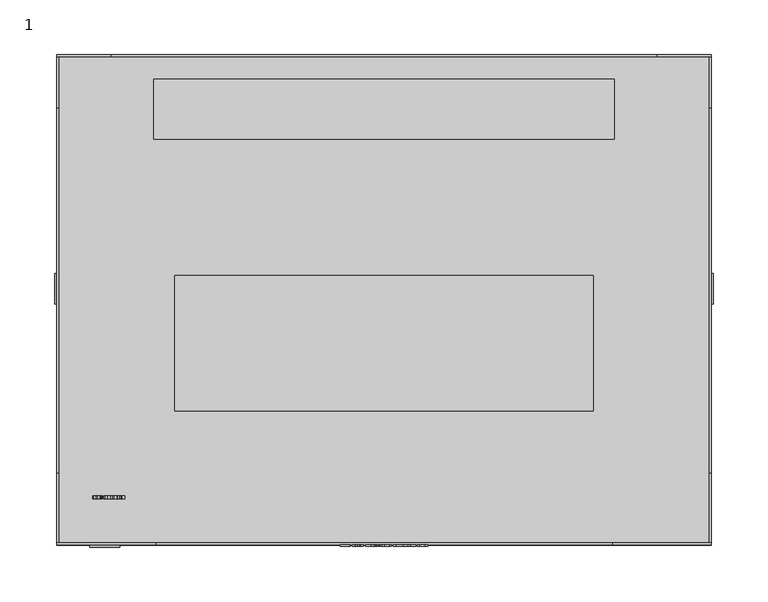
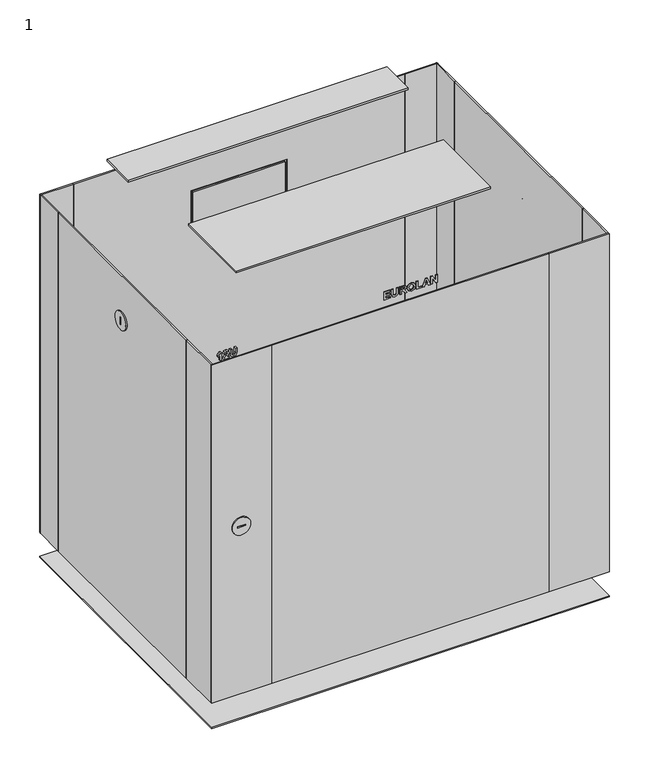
"""IFC4 building model written with IfcOpenShell, lengths in millimetres: proxy geometry, 1 : 12U 450мм стеклянная дверь."""

import ifcopenshell
import ifcopenshell.guid

model = None  # the IFC model being written
_history = None  # IfcOwnerHistory: only IFC2X3 demands one
_inside = {}  # id of a spatial element -> (the spatial element, [elements in it])
_under = {}  # id of a project, library or spatial element -> (it, [spatial elements below it])
_declared = {}  # id of a project -> (the project, [libraries it declares])
_typed = {}  # id of a type object -> (the type object, [elements of that type])
_made_of = {}  # id of a material, layer set ... -> (it, [elements and type objects made of it])


def new_model(schema):
    """Start an empty IFC model of exactly this schema.

    Asked for "IFC4X3", IfcOpenShell would pick the latest addendum, in which some entities
    have other attributes; the version numbers below select the first issue.
    IFC2X3 requires an IfcOwnerHistory on every rooted entity: one is made here for all.
    """
    global model, _history
    if schema == "IFC4X3":
        model = ifcopenshell.file(schema_version=(4, 3, 0, 0))
    else:
        model = ifcopenshell.file(schema=schema)
    _inside.clear()
    _under.clear()
    _declared.clear()
    _typed.clear()
    _made_of.clear()
    _history = None
    if model.schema == "IFC2X3":
        org = make("IfcOrganization", Name="unknown")
        user = make(
            "IfcPersonAndOrganization",
            ThePerson=make("IfcPerson", FamilyName="unknown"),
            TheOrganization=org,
        )
        app = make(
            "IfcApplication",
            ApplicationDeveloper=org,
            Version="unknown",
            ApplicationFullName="unknown",
            ApplicationIdentifier="unknown",
        )
        _history = make(
            "IfcOwnerHistory",
            OwningUser=user,
            OwningApplication=app,
            ChangeAction="ADDED",
            CreationDate=0,
        )
    return model


def make(cls, **values):
    """One entity of the class cls with the attributes given. An attribute that is None is left unset."""
    return model.create_entity(
        cls, **{name: value for name, value in values.items() if value is not None}
    )


def rooted(cls, **values):
    """An entity with a GlobalId (a new one), such as an element, a storey or a relation."""
    return make(cls, GlobalId=ifcopenshell.guid.new(), OwnerHistory=_history, **values)


def si_unit(unit_type, name, prefix=None):
    """IfcSIUnit, for example si_unit("LENGTHUNIT", "METRE", prefix="MILLI")."""
    return make("IfcSIUnit", UnitType=unit_type, Prefix=prefix, Name=name)


def assignment(units):
    """IfcUnitAssignment: the units of a project."""
    return None if units is None else make("IfcUnitAssignment", Units=units)


def point(xyz):
    """IfcCartesianPoint."""
    return None if xyz is None else make("IfcCartesianPoint", Coordinates=xyz)


def direction(xyz):
    """IfcDirection."""
    return None if xyz is None else make("IfcDirection", DirectionRatios=xyz)


def frame(location, z_axis=None, x_axis=None):
    """IfcAxis2Placement3D, a coordinate frame: its origin and axes. An axis left out is left unset."""
    return make(
        "IfcAxis2Placement3D",
        Location=point(location),
        Axis=direction(z_axis),
        RefDirection=direction(x_axis),
    )


def frame_2d(location, x_axis=None):
    """IfcAxis2Placement2D, a coordinate frame in the plane: its origin and x axis."""
    return make(
        "IfcAxis2Placement2D", Location=point(location), RefDirection=direction(x_axis)
    )


def origin():
    """The frame at (0, 0, 0) with its axes left unset."""
    return frame((0.0, 0.0, 0.0))


def origin_with_axes():
    """The frame at (0, 0, 0) with the z axis (0, 0, 1) and the x axis (1, 0, 0) written out."""
    return frame((0.0, 0.0, 0.0), z_axis=(0.0, 0.0, 1.0), x_axis=(1.0, 0.0, 0.0))


def place(relative_to, where):
    """IfcLocalPlacement: puts the frame where relative to a parent placement (None: the world)."""
    return make(
        "IfcLocalPlacement", PlacementRelTo=relative_to, RelativePlacement=where
    )


def context(
    kind, dimensions, precision=None, world=None, true_north=None, identifier=None
):
    """IfcGeometricRepresentationContext, for example the 3D "Model" context."""
    return make(
        "IfcGeometricRepresentationContext",
        ContextIdentifier=identifier,
        ContextType=kind,
        CoordinateSpaceDimension=dimensions,
        Precision=precision,
        WorldCoordinateSystem=world,
        TrueNorth=true_north,
    )


def project(units=None, contexts=None):
    """IfcProject with its units and contexts."""
    return rooted(
        "IfcProject",
        Name="project",
        RepresentationContexts=contexts,
        UnitsInContext=assignment(units),
    )


def spatial(cls, under=None, at=None, **own):
    """A site, building, storey or space (cls), placed at a placement, below another one or the project."""
    s = rooted(cls, ObjectPlacement=at, **own)
    if under is not None:
        _under.setdefault(under.id(), (under, []))[1].append(s)
    return s


def polyline(points):
    """IfcPolyline through the points."""
    return make("IfcPolyline", Points=[point(p) for p in points])


def circle_curve(where, radius):
    """IfcCircle in the frame where."""
    return make("IfcCircle", Position=where, Radius=radius)


def trimmed(basis, trim1, trim2, sense, master):
    """IfcTrimmedCurve: the piece of a basis curve between two trims."""
    return make(
        "IfcTrimmedCurve",
        BasisCurve=basis,
        Trim1=trim1,
        Trim2=trim2,
        SenseAgreement=sense,
        MasterRepresentation=master,
    )


def segment(curve, same_sense, transition):
    """IfcCompositeCurveSegment."""
    return make(
        "IfcCompositeCurveSegment",
        Transition=transition,
        SameSense=same_sense,
        ParentCurve=curve,
    )


def composite_curve(segments, self_intersect=None):
    """IfcCompositeCurve: segments joined end to end."""
    return make("IfcCompositeCurve", Segments=segments, SelfIntersect=self_intersect)


def outline(outer, holes=None, kind="AREA"):
    """IfcArbitraryClosedProfileDef: a profile drawn as a closed curve; with holes, ...WithVoids."""
    if holes is None:
        return make("IfcArbitraryClosedProfileDef", ProfileType=kind, OuterCurve=outer)
    return make(
        "IfcArbitraryProfileDefWithVoids",
        ProfileType=kind,
        OuterCurve=outer,
        InnerCurves=holes,
    )


def extrude(swept, where, along, depth):
    """IfcExtrudedAreaSolid: the profile swept, set in the frame where, extruded along a direction by depth."""
    return make(
        "IfcExtrudedAreaSolid",
        SweptArea=swept,
        Position=where,
        ExtrudedDirection=direction(along),
        Depth=depth,
    )


def shape(context_of_items, identifier, shape_type, items):
    """IfcShapeRepresentation: the items that make up one representation, for example the "Body"."""
    return make(
        "IfcShapeRepresentation",
        ContextOfItems=context_of_items,
        RepresentationIdentifier=identifier,
        RepresentationType=shape_type,
        Items=items,
    )


def source(mapping_origin, context_of_items, identifier, shape_type, items):
    """IfcRepresentationMap: a shape defined once, which mapped items show again and again."""
    return make(
        "IfcRepresentationMap",
        MappingOrigin=mapping_origin,
        MappedRepresentation=shape(context_of_items, identifier, shape_type, items),
    )


def transform(
    local_origin,
    x_axis=None,
    y_axis=None,
    z_axis=None,
    scale=None,
    scale2=None,
    scale3=None,
    uniform=True,
):
    """IfcCartesianTransformationOperator3D, or its non-uniform kind. x_axis, y_axis, z_axis: its Axis1, 2, 3."""
    if uniform:
        return make(
            "IfcCartesianTransformationOperator3D",
            Axis1=direction(x_axis),
            Axis2=direction(y_axis),
            LocalOrigin=point(local_origin),
            Scale=scale,
            Axis3=direction(z_axis),
        )
    return make(
        "IfcCartesianTransformationOperator3DnonUniform",
        Axis1=direction(x_axis),
        Axis2=direction(y_axis),
        LocalOrigin=point(local_origin),
        Scale=scale,
        Axis3=direction(z_axis),
        Scale2=scale2,
        Scale3=scale3,
    )


def mapped(mapping_source, mapping_target):
    """IfcMappedItem: shows the shape of a source again, moved by a transform."""
    return make(
        "IfcMappedItem", MappingSource=mapping_source, MappingTarget=mapping_target
    )


def made_of(thing, what):
    """Note that an element or type object is made of a material, layer set ...; save() writes the relation."""
    if what is not None:
        _made_of.setdefault(what.id(), (what, []))[1].append(thing)
    return thing


def element(
    cls,
    number,
    at=None,
    inside=None,
    cuts=None,
    type_object=None,
    material=None,
    context=None,
    identifier="Body",
    shape_type=None,
    held_by="IfcProductDefinitionShape",
    body=None,
    shapes=None,
    **own,
):
    """One element of the class cls, such as IfcWall. Its Tag is "e" and its number.

    at: its placement. inside: the storey or other place that contains it. cuts: it is an
    opening in that element (IfcRelVoidsElement). A single representation is given by context,
    identifier, shape_type and body (its items); several are given by shapes. held_by: the class
    of the entity that holds the representations. save() writes the other relations.
    """
    e = rooted(cls, Tag="e%d" % number, ObjectPlacement=at, **own)
    if body is not None:
        shapes = [shape(context, identifier, shape_type, body)]
    if shapes is not None:
        e.Representation = make(held_by, Representations=shapes)
    if inside is not None:
        _inside.setdefault(inside.id(), (inside, []))[1].append(e)
    if cuts is not None:
        rooted(
            "IfcRelVoidsElement", RelatingBuildingElement=cuts, RelatedOpeningElement=e
        )
    if type_object is not None:
        _typed.setdefault(type_object.id(), (type_object, []))[1].append(e)
    return made_of(e, material)


def aggregate(whole, parts):
    """IfcRelAggregates: a whole, such as a stair, and the parts it consists of."""
    return rooted("IfcRelAggregates", RelatingObject=whole, RelatedObjects=parts)


def save(model, path):
    """Write the relations noted so far, then the file.

    IfcRelAggregates (storeys below a building ...), IfcRelContainedInSpatialStructure (elements
    in a storey), IfcRelDefinesByType, IfcRelAssociatesMaterial and IfcRelDeclares: one each for
    every whole, place, type object, material and project.
    """
    for whole, parts in _under.values():
        aggregate(whole, parts)
    for where, things in _inside.values():
        rooted(
            "IfcRelContainedInSpatialStructure",
            RelatedElements=things,
            RelatingStructure=where,
        )
    for kind, things in _typed.values():
        rooted("IfcRelDefinesByType", RelatedObjects=things, RelatingType=kind)
    for what, things in _made_of.values():
        rooted("IfcRelAssociatesMaterial", RelatedObjects=things, RelatingMaterial=what)
    for by, libraries in _declared.values():
        rooted("IfcRelDeclares", RelatingContext=by, RelatedDefinitions=libraries)
    model.write(path)


def proxy_1_7a480675(model_context):
    return source(origin(), model_context, "Body", "SweptSolid", [
        extrude(outline(polyline([(593.0, -40.3245382), (593.0, -30.9964522), (595.1376864, -30.9964522), (595.1376864, -37.9925167), (598.2470483, -37.9925167), (598.2470483, -31.5794576), (600.3847347, -31.5794576), (600.3847347, -37.9925167), (603.1054264, -37.9925167), (603.1054264, -31.1907874), (605.2431128, -31.1907874), (605.2431128, -40.3245382), (593.0, -40.3245382)])), frame((0.0, -226.0, 0.0), z_axis=(0.0, 1.0, 0.0), x_axis=(0.0, 0.0, 1.0)), (0.0, 0.0, 1.0), 1.0),
        extrude(outline(polyline([(605.2431128, -29.053101), (598.7207402, -29.053101), (595.6174512, -28.8071456), (594.2601418, -28.1026808), (593.2095176, -26.6482039), (592.8056649, -23.9487675), (593.1761162, -21.5575346), (594.173602, -20.0954664), (595.7085458, -19.3454543), (598.8209443, -19.1420097), (605.2431128, -19.1420097), (605.2431128, -21.4740312), (598.4960402, -21.4740312), (596.4236383, -21.5924541), (595.3714958, -22.2923642), (594.9433512, -24.0216432), (595.3973059, -25.7979877), (596.5982363, -26.6208755), (598.6387551, -26.7210795), (605.2431128, -26.7210795), (605.2431128, -29.053101)])), frame((0.0, -226.0, 0.0), z_axis=(0.0, 1.0, 0.0), x_axis=(0.0, 0.0, 1.0)), (0.0, 0.0, 1.0), 1.0),
        extrude(outline(polyline([(593.0, -16.8099882), (593.0, -14.4779667), (598.0527132, -13.9435451), (597.9251808, -12.6120459), (597.4560437, -11.8164865), (595.7966039, -10.4242575), (593.0, -8.6509495), (593.0, -5.9272213), (595.3745323, -7.424209), (597.3512849, -8.7238252), (598.3715443, -9.9475291), (599.5071902, -7.6625732), (601.7936644, -6.8988969), (603.7339791, -7.4272455), (604.9121358, -8.8361752), (605.2431128, -11.6601074), (605.2431128, -16.8099882), (593.0, -16.8099882)]), holes=[polyline([(600.1903996, -14.4779667), (603.1054264, -14.4779667), (603.1054264, -12.4495939), (603.0659521, -10.5548264), (602.6150339, -9.5770778), (601.6782779, -9.2309184), (600.817434, -9.4935744), (600.3315962, -10.2223312), (600.1903996, -12.5558709), (600.1903996, -14.4779667)])]), frame((0.0, -226.0, 0.0), z_axis=(0.0, 1.0, 0.0), x_axis=(0.0, 0.0, 1.0)), (0.0, 0.0, 1.0), 1.0),
        extrude(outline(polyline([(599.0456442, -4.9555457), (594.4681411, -3.3735363), (592.8056649, 0.8896905), (594.4757323, 5.1225524), (599.106374, 6.7045618), (603.7628257, 5.1104065), (605.4374479, 0.8593256), (604.9546466, -1.7338337), (603.8539203, -3.2869964), (602.1792981, -4.4059416), (599.0456442, -4.9555457)]), holes=[polyline([(599.1306659, -2.6235242), (602.2612832, -1.6579215), (603.2997616, 0.886654), (602.2734292, 3.4190836), (599.1640672, 4.3725403), (595.9985302, 3.3932735), (594.9433512, 0.886654), (596.0061214, -1.6321114), (599.1306659, -2.6235242)])]), frame((0.0, -226.0, 0.0), z_axis=(0.0, 1.0, 0.0), x_axis=(0.0, 0.0, 1.0)), (0.0, 0.0, 1.0), 1.0),
        extrude(outline(polyline([(593.0, 8.647913), (593.0, 17.1986585), (595.1376864, 17.1986585), (595.1376864, 10.9799345), (605.2431128, 10.9799345), (605.2431128, 8.647913), (593.0, 8.647913)])), frame((0.0, -226.0, 0.0), z_axis=(0.0, 1.0, 0.0), x_axis=(0.0, 0.0, 1.0)), (0.0, 0.0, 1.0), 1.0),
        extrude(outline(polyline([(593.0, 29.2474361), (605.2431128, 24.7352175), (605.2431128, 22.2513717), (593.0, 17.7816638), (593.0, 20.2655096), (595.7206917, 21.2128934), (595.7206917, 25.837462), (593.0, 26.7969917), (593.0, 29.2474361)]), holes=[polyline([(597.8583781, 25.0904864), (597.8583781, 21.959869), (602.3280859, 23.51455), (597.8583781, 25.0904864)])]), frame((0.0, -226.0, 0.0), z_axis=(0.0, 1.0, 0.0), x_axis=(0.0, 0.0, 1.0)), (0.0, 0.0, 1.0), 1.0),
        extrude(outline(polyline([(593.0, 30.4134469), (593.0, 32.7454684), (601.1195644, 32.7454684), (593.0, 37.8042546), (593.0, 40.3245382), (605.2431128, 40.3245382), (605.2431128, 37.9925167), (597.002089, 37.9925167), (605.2431128, 32.8578184), (605.2431128, 30.4134469), (593.0, 30.4134469)])), frame((0.0, -226.0, 0.0), z_axis=(0.0, 1.0, 0.0), x_axis=(0.0, 0.0, 1.0)), (0.0, 0.0, 1.0), 1.0),
        extrude(outline(composite_curve([segment(trimmed(circle_curve(frame_2d((9.997621, 508.4611412)), 14.0), [point((-4.002379, 508.4611412))], [point((23.997621, 508.4611412))], False, "CARTESIAN"), True, "CONTINUOUS"), segment(trimmed(circle_curve(frame_2d((9.997621, 508.4611412)), 14.0), [point((23.997621, 508.4611412))], [point((-4.002379, 508.4611412))], False, "CARTESIAN"), True, "CONTINUOUS")], self_intersect=False), holes=[polyline([(11.0, 514.5), (9.0, 514.5), (9.0, 502.5), (11.0, 502.5), (11.0, 514.5)])]), frame((-302.0, 0.0, 0.0), z_axis=(1.0, 0.0, 0.0), x_axis=(0.0, 1.0, 0.0)), (0.0, 0.0, 1.0), 2.0),
        extrude(outline(composite_curve([segment(trimmed(circle_curve(frame_2d((9.997621, 508.4611412)), 14.0), [point((-4.002379, 508.4611412))], [point((23.997621, 508.4611412))], False, "CARTESIAN"), True, "CONTINUOUS"), segment(trimmed(circle_curve(frame_2d((9.997621, 508.4611412)), 14.0), [point((23.997621, 508.4611412))], [point((-4.002379, 508.4611412))], False, "CARTESIAN"), True, "CONTINUOUS")], self_intersect=False), holes=[polyline([(11.0, 514.5), (9.0, 514.5), (9.0, 502.5), (11.0, 502.5), (11.0, 514.5)])]), frame((300.0, 0.0, 0.0), z_axis=(1.0, 0.0, 0.0), x_axis=(0.0, 1.0, 0.0)), (0.0, 0.0, 1.0), 2.0),
        extrude(outline(composite_curve([segment(trimmed(circle_curve(frame_2d((308.5, -256.0)), 13.7647373), [point((308.5, -242.2352627))], [point((308.5, -269.7647373))], False, "CARTESIAN"), True, "CONTINUOUS"), segment(trimmed(circle_curve(frame_2d((308.5, -256.0)), 13.7647373), [point((308.5, -269.7647373))], [point((308.5, -242.2352627))], False, "CARTESIAN"), True, "CONTINUOUS")], self_intersect=False), holes=[polyline([(309.5, -250.0), (307.5, -250.0), (307.5, -262.0), (309.5, -262.0), (309.5, -250.0)])]), frame((0.0, -227.0, 0.0), z_axis=(0.0, 1.0, 0.0), x_axis=(0.0, 0.0, 1.0)), (0.0, 0.0, 1.0), 2.0),
        extrude(outline(polyline([(300.0, 225.0), (300.0, -225.0), (-300.0, -225.0), (-300.0, 225.0), (300.0, 225.0)])), origin_with_axes(), (0.0, 0.0, 1.0), 2.0),
        extrude(outline(polyline([(211.0, 202.5), (211.0, 147.5), (-211.0, 147.5), (-211.0, 202.5), (211.0, 202.5)])), frame((0.0, 0.0, 613.9795778), z_axis=(0.0, 0.0, 1.0), x_axis=(1.0, 0.0, 0.0)), (0.0, 0.0, 1.0), 3.0204222),
        extrude(outline(polyline([(192.0, 22.0), (192.0, -102.0), (-192.0, -102.0), (-192.0, 22.0), (192.0, 22.0)])), frame((0.0, 0.0, 613.9795778), z_axis=(0.0, 0.0, 1.0), x_axis=(1.0, 0.0, 0.0)), (0.0, 0.0, 1.0), 3.0204222),
        extrude(outline(polyline([(-69.5, 225.0), (69.5, 225.0), (69.5, 223.0), (-69.5, 223.0), (-69.5, 225.0)])), frame((0.0, 0.0, 454.0), z_axis=(0.0, 0.0, 1.0), x_axis=(1.0, 0.0, 0.0)), (0.0, 0.0, 1.0), 49.0),
        extrude(outline(polyline([(579.0, -250.0), (40.0, -250.0), (40.0, 250.0), (579.0, 250.0), (579.0, -250.0)]), holes=[polyline([(506.0, -72.5), (506.0, 72.5), (451.0, 72.5), (451.0, -72.5), (506.0, -72.5)])]), frame((0.0, 223.0, 0.0), z_axis=(0.0, 1.0, 0.0), x_axis=(0.0, 0.0, 1.0)), (0.0, 0.0, 1.0), 2.0),
        extrude(outline(polyline([(-300.0, 225.0), (-250.0, 225.0), (-250.0, 223.0), (-300.0, 223.0), (-300.0, 225.0)])), frame((0.0, 0.0, 40.0), z_axis=(0.0, 0.0, 1.0), x_axis=(1.0, 0.0, 0.0)), (0.0, 0.0, 1.0), 539.0),
        extrude(outline(polyline([(250.0, 225.0), (300.0, 225.0), (300.0, 223.0), (250.0, 223.0), (250.0, 225.0)])), frame((0.0, 0.0, 40.0), z_axis=(0.0, 0.0, 1.0), x_axis=(1.0, 0.0, 0.0)), (0.0, 0.0, 1.0), 539.0),
        extrude(outline(polyline([(-209.0, -223.0), (209.0, -223.0), (209.0, -225.0), (-209.0, -225.0), (-209.0, -223.0)])), frame((0.0, 0.0, 40.0), z_axis=(0.0, 0.0, 1.0), x_axis=(1.0, 0.0, 0.0)), (0.0, 0.0, 1.0), 539.0),
        extrude(outline(polyline([(209.0, -223.0), (300.0, -223.0), (300.0, -225.0), (209.0, -225.0), (209.0, -223.0)])), frame((0.0, 0.0, 40.0), z_axis=(0.0, 0.0, 1.0), x_axis=(1.0, 0.0, 0.0)), (0.0, 0.0, 1.0), 539.0),
        extrude(outline(polyline([(-300.0, -223.0), (-209.0, -223.0), (-209.0, -225.0), (-300.0, -225.0), (-300.0, -223.0)])), frame((0.0, 0.0, 40.0), z_axis=(0.0, 0.0, 1.0), x_axis=(1.0, 0.0, 0.0)), (0.0, 0.0, 1.0), 539.0),
        extrude(outline(polyline([(-298.0, 175.8155315), (-298.0, -158.7095641), (-300.0, -158.7095641), (-300.0, 175.8155315), (-298.0, 175.8155315)])), frame((0.0, 0.0, 40.0), z_axis=(0.0, 0.0, 1.0), x_axis=(1.0, 0.0, 0.0)), (0.0, 0.0, 1.0), 539.0),
        extrude(outline(polyline([(-298.0, -158.7095641), (-298.0, -225.0), (-300.0, -225.0), (-300.0, -158.7095641), (-298.0, -158.7095641)])), frame((0.0, 0.0, 40.0), z_axis=(0.0, 0.0, 1.0), x_axis=(1.0, 0.0, 0.0)), (0.0, 0.0, 1.0), 539.0),
        extrude(outline(polyline([(-298.0, 225.0), (-298.0, 175.8155315), (-300.0, 175.8155315), (-300.0, 225.0), (-298.0, 225.0)])), frame((0.0, 0.0, 40.0), z_axis=(0.0, 0.0, 1.0), x_axis=(1.0, 0.0, 0.0)), (0.0, 0.0, 1.0), 539.0),
        extrude(outline(polyline([(300.0, 175.8155315), (300.0, -158.7095641), (298.0, -158.7095641), (298.0, 175.8155315), (300.0, 175.8155315)])), frame((0.0, 0.0, 40.0), z_axis=(0.0, 0.0, 1.0), x_axis=(1.0, 0.0, 0.0)), (0.0, 0.0, 1.0), 539.0),
        extrude(outline(polyline([(300.0, 225.0), (300.0, 175.8155315), (298.0, 175.8155315), (298.0, 225.0), (300.0, 225.0)])), frame((0.0, 0.0, 40.0), z_axis=(0.0, 0.0, 1.0), x_axis=(1.0, 0.0, 0.0)), (0.0, 0.0, 1.0), 539.0),
        extrude(outline(polyline([(300.0, -158.7095641), (300.0, -225.0), (298.0, -225.0), (298.0, -158.7095641), (300.0, -158.7095641)])), frame((0.0, 0.0, 40.0), z_axis=(0.0, 0.0, 1.0), x_axis=(1.0, 0.0, 0.0)), (0.0, 0.0, 1.0), 539.0),
        extrude(outline(polyline([(547.6333267, -260.6030776), (559.8764395, -260.6030776), (559.8764395, -262.4614073), (557.9103146, -263.9037383), (556.7670775, -265.850126), (554.435056, -265.850126), (556.3844802, -262.9350991), (547.6333267, -262.9350991), (547.6333267, -260.6030776)])), frame((0.0, -182.6777479, 0.0), z_axis=(0.0, 1.0, 0.0), x_axis=(0.0, 0.0, 1.0)), (0.0, 0.0, 1.0), 3.0),
        extrude(outline(polyline([(549.9653481, -249.3316405), (550.6030103, -253.2395983), (551.9299548, -251.9080991), (553.4603439, -250.4581769), (554.9937695, -249.6018877), (556.5363045, -249.3316405), (558.918428, -250.3184985), (559.8764395, -253.0331173), (559.0216686, -255.6596779), (556.202291, -256.9107103), (555.989737, -254.5786888), (557.3333822, -254.1292888), (557.7387531, -253.0847375), (557.3273092, -252.0417045), (556.1476343, -251.6636619), (554.7447776, -252.1130619), (552.7892804, -253.9167348), (549.9213191, -256.3611063), (547.6333267, -257.1050454), (547.6333267, -249.3316405), (549.9653481, -249.3316405)])), frame((0.0, -182.6777479, 0.0), z_axis=(0.0, 1.0, 0.0), x_axis=(0.0, 0.0, 1.0)), (0.0, 0.0, 1.0), 3.0),
        extrude(outline(polyline([(559.8764395, -247.3882892), (553.3540669, -247.3882892), (550.2507779, -247.1423338), (548.8934685, -246.437869), (547.8428442, -244.9833921), (547.4389915, -242.2839557), (547.8094429, -239.8927228), (548.8069286, -238.4306546), (550.3418725, -237.6806425), (553.4542709, -237.4771979), (559.8764395, -237.4771979), (559.8764395, -239.8092194), (553.1293669, -239.8092194), (551.056965, -239.9276424), (550.0048225, -240.6275524), (549.5766779, -242.3568314), (550.0306326, -244.1331759), (551.2315629, -244.9560637), (553.2720817, -245.0562677), (559.8764395, -245.0562677), (559.8764395, -247.3882892)])), frame((0.0, -182.6777479, 0.0), z_axis=(0.0, 1.0, 0.0), x_axis=(0.0, 0.0, 1.0)), (0.0, 0.0, 1.0), 3.0),
        extrude(outline(polyline([(501.1786301, -260.6030776), (513.4217429, -260.6030776), (513.4217429, -262.4614073), (511.455618, -263.9037383), (510.3123809, -265.850126), (507.9803594, -265.850126), (509.9297836, -262.9350991), (501.1786301, -262.9350991), (501.1786301, -260.6030776)])), frame((0.0, -182.6777479, 0.0), z_axis=(0.0, 1.0, 0.0), x_axis=(0.0, 0.0, 1.0)), (0.0, 0.0, 1.0), 3.0),
        extrude(outline(polyline([(501.1786301, -251.2749917), (513.4217429, -251.2749917), (513.4217429, -253.1333213), (511.455618, -254.5756523), (510.3123809, -256.52204), (507.9803594, -256.52204), (509.9297836, -253.6070132), (501.1786301, -253.6070132), (501.1786301, -251.2749917)])), frame((0.0, -182.6777479, 0.0), z_axis=(0.0, 1.0, 0.0), x_axis=(0.0, 0.0, 1.0)), (0.0, 0.0, 1.0), 3.0),
        extrude(outline(polyline([(513.4217429, -247.3882892), (506.8993703, -247.3882892), (503.7960813, -247.1423338), (502.4387719, -246.437869), (501.3881476, -244.9833921), (500.9842949, -242.2839557), (501.3547463, -239.8927228), (502.352232, -238.4306546), (503.8871758, -237.6806425), (506.9995743, -237.4771979), (513.4217429, -237.4771979), (513.4217429, -239.8092194), (506.6746703, -239.8092194), (504.6022684, -239.9276424), (503.5501259, -240.6275524), (503.1219813, -242.3568314), (503.575936, -244.1331759), (504.7768663, -244.9560637), (506.8173851, -245.0562677), (513.4217429, -245.0562677), (513.4217429, -247.3882892)])), frame((0.0, -182.6777479, 0.0), z_axis=(0.0, 1.0, 0.0), x_axis=(0.0, 0.0, 1.0)), (0.0, 0.0, 1.0), 3.0),
        extrude(outline(polyline([(457.3261317, -260.6030776), (469.5692445, -260.6030776), (469.5692445, -262.4614073), (467.6031196, -263.9037383), (466.4598825, -265.850126), (464.127861, -265.850126), (466.0772852, -262.9350991), (457.3261317, -262.9350991), (457.3261317, -260.6030776)])), frame((0.0, -182.6777479, 0.0), z_axis=(0.0, 1.0, 0.0), x_axis=(0.0, 0.0, 1.0)), (0.0, 0.0, 1.0), 3.0),
        extrude(outline(polyline([(469.5692445, -253.2183429), (468.3242851, -255.9299252), (463.3717759, -257.1050454), (458.4982154, -256.034684), (457.1317966, -253.2183429), (458.3767559, -250.5067607), (463.347484, -249.3316405), (468.3060662, -250.5006877), (469.5692445, -253.2183429)]), holes=[polyline([(467.4315581, -253.2183429), (467.174975, -252.4455572), (466.1531974, -251.8853254), (463.347484, -251.6636619), (460.4476396, -251.9126538), (459.526066, -252.4410024), (459.2694829, -253.2183429), (459.5230295, -253.9911287), (460.5402524, -254.5513604), (463.347484, -254.7730239), (466.2534014, -254.524032), (467.174975, -253.9956834), (467.4315581, -253.2183429)])]), frame((0.0, -182.6777479, 0.0), z_axis=(0.0, 1.0, 0.0), x_axis=(0.0, 0.0, 1.0)), (0.0, 0.0, 1.0), 3.0),
        extrude(outline(polyline([(469.5692445, -247.3882892), (463.0468719, -247.3882892), (459.9435829, -247.1423338), (458.5862735, -246.437869), (457.5356492, -244.9833921), (457.1317966, -242.2839557), (457.5022479, -239.8927228), (458.4997336, -238.4306546), (460.0346775, -237.6806425), (463.1470759, -237.4771979), (469.5692445, -237.4771979), (469.5692445, -239.8092194), (462.8221719, -239.8092194), (460.74977, -239.9276424), (459.6976275, -240.6275524), (459.2694829, -242.3568314), (459.7234376, -244.1331759), (460.924368, -244.9560637), (462.9648868, -245.0562677), (469.5692445, -245.0562677), (469.5692445, -247.3882892)])), frame((0.0, -182.6777479, 0.0), z_axis=(0.0, 1.0, 0.0), x_axis=(0.0, 0.0, 1.0)), (0.0, 0.0, 1.0), 3.0),
        extrude(outline(polyline([(416.2414631, -266.2387962), (413.8062011, -265.1547706), (412.9924228, -262.9381356), (414.4696734, -259.8469925), (419.2870589, -258.6597264), (423.9981674, -259.7953723), (425.4298707, -262.7012897), (424.3169985, -265.3809888), (421.3852709, -266.4331314), (418.550711, -265.4083172), (417.4621306, -262.971537), (418.476317, -260.8065222), (415.7753625, -261.4290019), (415.1301091, -262.6071586), (415.4641226, -263.4922944), (416.490455, -263.9067747), (416.2414631, -266.2387962)]), holes=[polyline([(421.3306142, -260.9917479), (420.0385892, -261.4365931), (419.599817, -262.5312464), (420.0568082, -263.6517099), (421.4885115, -264.1011099), (422.8701127, -263.6881477), (423.2921843, -262.6496694), (422.7774999, -261.4927681), (421.3306142, -260.9917479)])]), frame((0.0, -182.6777479, 0.0), z_axis=(0.0, 1.0, 0.0), x_axis=(0.0, 0.0, 1.0)), (0.0, 0.0, 1.0), 3.0),
        extrude(outline(polyline([(425.4298707, -256.7163752), (418.9074981, -256.7163752), (415.8042091, -256.4704198), (414.4468997, -255.7659549), (413.3962754, -254.311478), (412.9924228, -251.6120417), (413.3628741, -249.2208087), (414.3603599, -247.7587405), (415.8953037, -247.0087284), (419.0077021, -246.8052838), (425.4298707, -246.8052838), (425.4298707, -249.1373053), (418.6827981, -249.1373053), (416.6103962, -249.2557283), (415.5582537, -249.9556384), (415.1301091, -251.6849173), (415.5840638, -253.4612618), (416.7849942, -254.2841496), (418.825513, -254.3843537), (425.4298707, -254.3843537), (425.4298707, -256.7163752)])), frame((0.0, -182.6777479, 0.0), z_axis=(0.0, 1.0, 0.0), x_axis=(0.0, 0.0, 1.0)), (0.0, 0.0, 1.0), 3.0),
        extrude(outline(polyline([(376.4962498, -264.3865396), (375.2254803, -265.9397023), (373.4172527, -266.4331314), (370.6024299, -265.1669166), (369.7339948, -262.4826627), (370.784619, -259.7042777), (373.5174567, -258.6597264), (375.3120201, -259.1865568), (376.4962498, -260.7245371), (377.508918, -259.3444541), (379.0226064, -258.8540615), (381.280234, -259.8227007), (382.1714427, -262.5464289), (381.280234, -265.2777483), (379.0226064, -266.2387962), (377.5499105, -265.7985057), (376.4962498, -264.3865396)]), holes=[polyline([(378.8798915, -263.9067747), (380.000355, -263.5332869), (380.4224266, -262.5312464), (380.0033915, -261.5550161), (378.889001, -261.186083), (377.7320997, -261.5595708), (377.3130646, -262.5555383), (377.727545, -263.5378417), (378.8798915, -263.9067747)]), polyline([(373.6146243, -264.1011099), (374.94916, -263.7169943), (375.5640485, -262.5494654), (375.0220357, -261.4320384), (373.5872959, -260.9917479), (372.0250237, -261.4244472), (371.4830109, -262.5191005), (372.0462791, -263.6486734), (373.6146243, -264.1011099)])]), frame((0.0, -182.6777479, 0.0), z_axis=(0.0, 1.0, 0.0), x_axis=(0.0, 0.0, 1.0)), (0.0, 0.0, 1.0), 3.0),
        extrude(outline(polyline([(382.1714427, -256.7163752), (375.6490701, -256.7163752), (372.5457811, -256.4704198), (371.1884717, -255.7659549), (370.1378475, -254.311478), (369.7339948, -251.6120417), (370.1044461, -249.2208087), (371.1019319, -247.7587405), (372.6368757, -247.0087284), (375.7492742, -246.8052838), (382.1714427, -246.8052838), (382.1714427, -249.1373053), (375.4243701, -249.1373053), (373.3519682, -249.2557283), (372.2998257, -249.9556384), (371.8716811, -251.6849173), (372.3256358, -253.4612618), (373.5265662, -254.2841496), (375.567085, -254.3843537), (382.1714427, -254.3843537), (382.1714427, -256.7163752)])), frame((0.0, -182.6777479, 0.0), z_axis=(0.0, 1.0, 0.0), x_axis=(0.0, 0.0, 1.0)), (0.0, 0.0, 1.0), 3.0),
        extrude(outline(polyline([(334.6450861, -266.4331314), (334.6450861, -261.3257614), (330.0129262, -264.008497), (324.9283299, -265.0727855), (324.9283299, -262.740764), (328.5812229, -262.2154519), (332.440597, -260.6622891), (335.2280915, -258.6597264), (336.9771076, -258.6597264), (336.9771076, -266.4331314), (334.6450861, -266.4331314)])), frame((0.0, -182.6777479, 0.0), z_axis=(0.0, 1.0, 0.0), x_axis=(0.0, 0.0, 1.0)), (0.0, 0.0, 1.0), 3.0),
        extrude(outline(polyline([(337.1714427, -256.7163752), (330.6490701, -256.7163752), (327.5457811, -256.4704198), (326.1884717, -255.7659549), (325.1378475, -254.311478), (324.7339948, -251.6120417), (325.1044461, -249.2208087), (326.1019319, -247.7587405), (327.6368757, -247.0087284), (330.7492742, -246.8052838), (337.1714427, -246.8052838), (337.1714427, -249.1373053), (330.4243701, -249.1373053), (328.3519682, -249.2557283), (327.2998257, -249.9556384), (326.8716811, -251.6849173), (327.3256358, -253.4612618), (328.5265662, -254.2841496), (330.567085, -254.3843537), (337.1714427, -254.3843537), (337.1714427, -256.7163752)])), frame((0.0, -182.6777479, 0.0), z_axis=(0.0, 1.0, 0.0), x_axis=(0.0, 0.0, 1.0)), (0.0, 0.0, 1.0), 3.0),
        extrude(outline(polyline([(287.6111434, -258.8540615), (290.0281866, -259.9654155), (290.8601838, -262.1668681), (289.381415, -265.2473834), (284.5534017, -266.4331314), (279.8559574, -265.2974855), (278.4227359, -262.4006775), (279.5325716, -259.7073142), (282.4764451, -258.6597264), (285.2973409, -259.6845405), (286.390476, -262.1486492), (285.3671801, -264.2802626), (288.0772441, -263.6638558), (288.7224974, -262.4674802), (288.3900022, -261.5990451), (287.3621516, -261.186083), (287.6111434, -258.8540615)]), holes=[polyline([(282.5280654, -264.1011099), (283.8155356, -263.6532281), (284.2527896, -262.5585748), (283.7957984, -261.4396296), (282.3549856, -260.9917479), (280.9794573, -261.4077465), (280.5604222, -262.4462248), (281.0720702, -263.5970531), (282.5280654, -264.1011099)])]), frame((0.0, -182.6777479, 0.0), z_axis=(0.0, 1.0, 0.0), x_axis=(0.0, 0.0, 1.0)), (0.0, 0.0, 1.0), 3.0),
        extrude(outline(polyline([(290.8601838, -256.7163752), (284.3378112, -256.7163752), (281.2345222, -256.4704198), (279.8772128, -255.7659549), (278.8265886, -254.311478), (278.4227359, -251.6120417), (278.7931872, -249.2208087), (279.790673, -247.7587405), (281.3256168, -247.0087284), (284.4380153, -246.8052838), (290.8601838, -246.8052838), (290.8601838, -249.1373053), (284.1131112, -249.1373053), (282.0407093, -249.2557283), (280.9885668, -249.9556384), (280.5604222, -251.6849173), (281.0143769, -253.4612618), (282.2153073, -254.2841496), (284.2558261, -254.3843537), (290.8601838, -254.3843537), (290.8601838, -256.7163752)])), frame((0.0, -182.6777479, 0.0), z_axis=(0.0, 1.0, 0.0), x_axis=(0.0, 0.0, 1.0)), (0.0, 0.0, 1.0), 3.0),
        extrude(outline(polyline([(237.3503584, -266.4331314), (234.6964693, -265.1957632), (233.7096113, -262.522137), (235.2825112, -259.312571), (237.9029989, -258.4653913), (240.7679237, -259.4826142), (241.8716865, -261.960387), (241.3949581, -263.4634477), (243.6207026, -262.9927924), (243.6207026, -259.0483966), (245.9527241, -259.0483966), (245.9527241, -264.8784504), (239.0629366, -266.2387962), (238.7623245, -264.2164963), (239.7340001, -262.509991), (239.2633447, -261.2726229), (237.8513786, -260.7974128), (236.3467996, -261.3090607), (235.8472976, -262.5585748), (236.317953, -263.7002937), (237.5963138, -264.295445), (237.3503584, -266.4331314)])), frame((0.0, -182.6777479, 0.0), z_axis=(0.0, 1.0, 0.0), x_axis=(0.0, 0.0, 1.0)), (0.0, 0.0, 1.0), 3.0),
        extrude(outline(polyline([(246.1470592, -256.7163752), (239.6246866, -256.7163752), (236.5213976, -256.4704198), (235.1640882, -255.7659549), (234.113464, -254.311478), (233.7096113, -251.6120417), (234.0800626, -249.2208087), (235.0775484, -247.7587405), (236.6124922, -247.0087284), (239.7248907, -246.8052838), (246.1470592, -246.8052838), (246.1470592, -249.1373053), (239.3999866, -249.1373053), (237.3275847, -249.2557283), (236.2754422, -249.9556384), (235.8472976, -251.6849173), (236.3012523, -253.4612618), (237.5021827, -254.2841496), (239.5427015, -254.3843537), (246.1470592, -254.3843537), (246.1470592, -256.7163752)])), frame((0.0, -182.6777479, 0.0), z_axis=(0.0, 1.0, 0.0), x_axis=(0.0, 0.0, 1.0)), (0.0, 0.0, 1.0), 3.0),
        extrude(outline(polyline([(189.9283299, -262.1577586), (189.9283299, -259.8257371), (192.4546865, -259.8257371), (192.4546865, -258.2710562), (194.3980377, -258.2710562), (194.3980377, -259.8257371), (201.9771076, -259.8257371), (201.9771076, -261.848037), (194.3889283, -266.8218016), (192.4546865, -266.8218016), (192.4546865, -262.1577586), (189.9283299, -262.1577586)]), holes=[polyline([(194.3980377, -262.1577586), (194.3980377, -264.7630639), (198.3758348, -262.1577586), (194.3980377, -262.1577586)])]), frame((0.0, -182.6777479, 0.0), z_axis=(0.0, 1.0, 0.0), x_axis=(0.0, 0.0, 1.0)), (0.0, 0.0, 1.0), 3.0),
        extrude(outline(polyline([(202.1714427, -256.7163752), (195.6490701, -256.7163752), (192.5457811, -256.4704198), (191.1884717, -255.7659549), (190.1378475, -254.311478), (189.7339948, -251.6120417), (190.1044461, -249.2208087), (191.1019319, -247.7587405), (192.6368757, -247.0087284), (195.7492742, -246.8052838), (202.1714427, -246.8052838), (202.1714427, -249.1373053), (195.4243701, -249.1373053), (193.3519682, -249.2557283), (192.2998257, -249.9556384), (191.8716811, -251.6849173), (192.3256358, -253.4612618), (193.5265662, -254.2841496), (195.567085, -254.3843537), (202.1714427, -254.3843537), (202.1714427, -256.7163752)])), frame((0.0, -182.6777479, 0.0), z_axis=(0.0, 1.0, 0.0), x_axis=(0.0, 0.0, 1.0)), (0.0, 0.0, 1.0), 3.0),
        extrude(outline(polyline([(148.35045, -266.4331314), (145.734517, -265.2200551), (144.7339948, -262.5859032), (145.859013, -259.7847446), (148.5781864, -258.6597264), (150.4562532, -259.294352), (151.4567755, -260.9887114), (154.0286794, -259.2427318), (156.0691982, -260.0565101), (157.1714427, -262.6739613), (156.773663, -264.3971673), (155.6820462, -265.5965794), (153.8282713, -266.2387962), (153.4790753, -263.9067747), (154.6374949, -263.4892579), (155.0337563, -262.6587789), (154.6921516, -261.8708107), (153.776651, -261.5747533), (152.6956619, -261.9710147), (152.3130646, -263.1203248), (150.3909688, -263.3237694), (150.5640485, -262.397641), (150.0812472, -261.4001553), (148.7725216, -260.9917479), (147.3863656, -261.4381114), (146.8716811, -262.5403559), (147.3210811, -263.5757977), (148.6206973, -264.1011099), (148.35045, -266.4331314)])), frame((0.0, -182.6777479, 0.0), z_axis=(0.0, 1.0, 0.0), x_axis=(0.0, 0.0, 1.0)), (0.0, 0.0, 1.0), 3.0),
        extrude(outline(polyline([(157.1714427, -256.7163752), (150.6490701, -256.7163752), (147.5457811, -256.4704198), (146.1884717, -255.7659549), (145.1378475, -254.311478), (144.7339948, -251.6120417), (145.1044461, -249.2208087), (146.1019319, -247.7587405), (147.6368757, -247.0087284), (150.7492742, -246.8052838), (157.1714427, -246.8052838), (157.1714427, -249.1373053), (150.4243701, -249.1373053), (148.3519682, -249.2557283), (147.2998257, -249.9556384), (146.8716811, -251.6849173), (147.3256358, -253.4612618), (148.5265662, -254.2841496), (150.567085, -254.3843537), (157.1714427, -254.3843537), (157.1714427, -256.7163752)])), frame((0.0, -182.6777479, 0.0), z_axis=(0.0, 1.0, 0.0), x_axis=(0.0, 0.0, 1.0)), (0.0, 0.0, 1.0), 3.0),
        extrude(outline(polyline([(103.3014708, -258.8246798), (103.9391329, -262.7326376), (105.2660774, -261.4011384), (106.7964665, -259.9512162), (108.3298921, -259.094927), (109.8724272, -258.8246798), (112.2545507, -259.8115378), (113.2125621, -262.5261566), (112.3577912, -265.1527172), (109.5384137, -266.4037496), (109.3258596, -264.0717281), (110.6695048, -263.6223281), (111.0748758, -262.5777768), (110.6634319, -261.5347438), (109.4837569, -261.1567012), (108.0809003, -261.6061012), (106.1254031, -263.4097741), (103.2574418, -265.8541456), (100.9694493, -266.5980847), (100.9694493, -258.8246798), (103.3014708, -258.8246798)])), frame((0.0, -182.6777479, 0.0), z_axis=(0.0, 1.0, 0.0), x_axis=(0.0, 0.0, 1.0)), (0.0, 0.0, 1.0), 3.0),
        extrude(outline(polyline([(113.2125621, -256.8813285), (106.6901895, -256.8813285), (103.5869005, -256.6353731), (102.2295911, -255.9309083), (101.1789669, -254.4764314), (100.7751142, -251.776995), (101.1455655, -249.3857621), (102.1430513, -247.9236939), (103.6779951, -247.1736818), (106.7903936, -246.9702372), (113.2125621, -246.9702372), (113.2125621, -249.3022587), (106.4654895, -249.3022587), (104.3930876, -249.4206817), (103.3409451, -250.1205917), (102.9128006, -251.8498707), (103.3667553, -253.6262152), (104.5676856, -254.449103), (106.6082044, -254.549307), (113.2125621, -254.549307), (113.2125621, -256.8813285)])), frame((0.0, -182.6777479, 0.0), z_axis=(0.0, 1.0, 0.0), x_axis=(0.0, 0.0, 1.0)), (0.0, 0.0, 1.0), 3.0),
        extrude(outline(polyline([(59.9283299, -260.6030776), (72.1714427, -260.6030776), (72.1714427, -262.4614073), (70.2053178, -263.9037383), (69.0620807, -265.850126), (66.7300592, -265.850126), (68.6794834, -262.9350991), (59.9283299, -262.9350991), (59.9283299, -260.6030776)])), frame((0.0, -182.6777479, 0.0), z_axis=(0.0, 1.0, 0.0), x_axis=(0.0, 0.0, 1.0)), (0.0, 0.0, 1.0), 3.0),
        extrude(outline(polyline([(72.1714427, -256.7163752), (65.6490701, -256.7163752), (62.5457811, -256.4704198), (61.1884717, -255.7659549), (60.1378475, -254.311478), (59.7339948, -251.6120417), (60.1044461, -249.2208087), (61.1019319, -247.7587405), (62.6368757, -247.0087284), (65.7492742, -246.8052838), (72.1714427, -246.8052838), (72.1714427, -249.1373053), (65.4243701, -249.1373053), (63.3519682, -249.2557283), (62.2998257, -249.9556384), (61.8716811, -251.6849173), (62.3256358, -253.4612618), (63.5265662, -254.2841496), (65.567085, -254.3843537), (72.1714427, -254.3843537), (72.1714427, -256.7163752)])), frame((0.0, -182.6777479, 0.0), z_axis=(0.0, 1.0, 0.0), x_axis=(0.0, 0.0, 1.0)), (0.0, 0.0, 1.0), 3.0),
    ])


if __name__ == "__main__":
    model = new_model("IFC4")
    model_context = context("Model", 3, world=origin())
    ifc_project = project(units=[si_unit("LENGTHUNIT", "METRE", prefix="MILLI")], contexts=[model_context])
    site = spatial("IfcSite", under=ifc_project)
    building = spatial("IfcBuilding", under=site)
    placement = place(None, origin())
    proxy_1_shape = proxy_1_7a480675(model_context)
    element("IfcBuildingElementProxy", 1, Name="1 : 12U 450мм стеклянная дверь", ObjectType="1 : 12U 450мм стеклянная дверь", at=placement, inside=building, context=model_context, shape_type="MappedRepresentation", body=[
        mapped(proxy_1_shape, transform((0.0, 0.0, 0.0), x_axis=(1.0, 0.0, 0.0), y_axis=(0.0, 1.0, 0.0), z_axis=(0.0, 0.0, 1.0))),
    ])
    save(model, "model.ifc")
